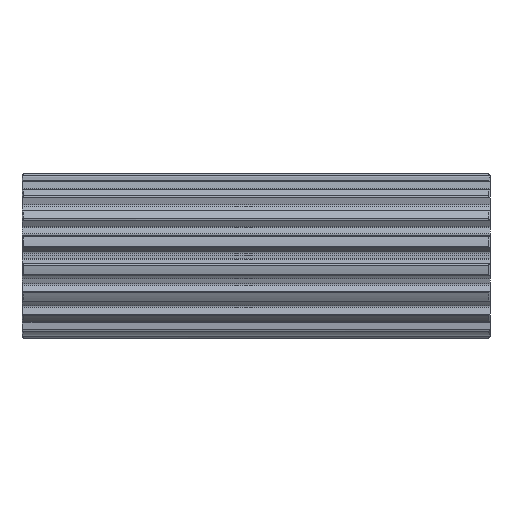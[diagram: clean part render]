
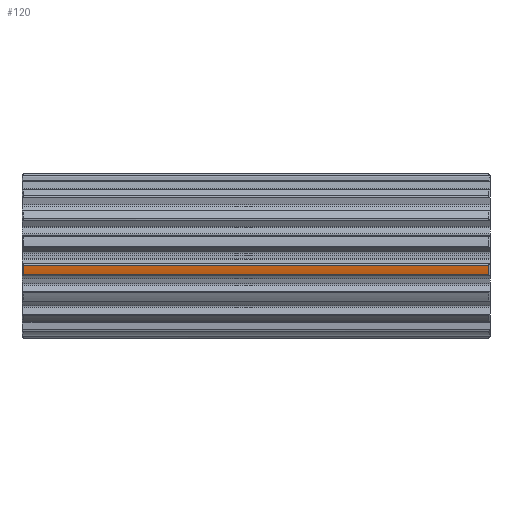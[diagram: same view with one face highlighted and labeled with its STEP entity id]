
A CAD part, top view. The second image highlights one B-rep face of the part: STEP entity #120.
In plain terms, the highlighted cylindrical face has radius 28.145 mm (diameter 56.29 mm), a partial arc.
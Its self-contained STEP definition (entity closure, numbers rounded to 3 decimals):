
#120=ADVANCED_FACE('',(#366),#367,.T.);
#366=FACE_OUTER_BOUND('',#768,.T.);
#367=CYLINDRICAL_SURFACE('',#769,28.145);
#768=EDGE_LOOP('',(#1435,#1436,#1437,#1438));
#769=AXIS2_PLACEMENT_3D('',#1439,#1440,#1441);
#1435=ORIENTED_EDGE('',*,*,#2971,.T.);
#1436=ORIENTED_EDGE('',*,*,#3027,.T.);
#1437=ORIENTED_EDGE('',*,*,#3028,.T.);
#1438=ORIENTED_EDGE('',*,*,#3029,.T.);
#1439=CARTESIAN_POINT('',(80.0,0.0,0.0));
#1440=DIRECTION('',(1.0,0.0,-0.0));
#1441=DIRECTION('',(0.0,0.985,0.174));
#2971=EDGE_CURVE('',#3659,#3668,#3670,.T.);
#3027=EDGE_CURVE('',#3668,#3771,#3772,.T.);
#3028=EDGE_CURVE('',#3771,#3773,#3774,.T.);
#3029=EDGE_CURVE('',#3773,#3659,#3775,.T.);
#3659=VERTEX_POINT('',#5079);
#3668=VERTEX_POINT('',#5113);
#3670=CIRCLE('',#5122,28.145);
#3771=VERTEX_POINT('',#5433);
#3772=LINE('',#5434,#5435);
#3773=VERTEX_POINT('',#5436);
#3774=CIRCLE('',#5437,28.145);
#3775=LINE('',#5438,#5439);
#5079=CARTESIAN_POINT('',(0.5,-3.295,27.951));
#5113=CARTESIAN_POINT('',(0.5,-6.464,27.393));
#5122=AXIS2_PLACEMENT_3D('',#6915,#6916,#6917);
#5433=CARTESIAN_POINT('',(159.5,-6.464,27.393));
#5434=CARTESIAN_POINT('',(80.0,-6.464,27.393));
#5435=VECTOR('',#6975,1.0);
#5436=CARTESIAN_POINT('',(159.5,-3.295,27.951));
#5437=AXIS2_PLACEMENT_3D('',#6976,#6977,#6978);
#5438=CARTESIAN_POINT('',(80.0,-3.295,27.951));
#5439=VECTOR('',#6979,1.0);
#6915=CARTESIAN_POINT('',(0.5,0.0,0.0));
#6916=DIRECTION('',(1.0,0.,0.));
#6917=DIRECTION('',(0.,0.985,0.174));
#6975=DIRECTION('',(1.0,0.0,0.0));
#6976=CARTESIAN_POINT('',(159.5,0.0,0.0));
#6977=DIRECTION('',(-1.0,0.0,0.0));
#6978=DIRECTION('',(0.0,0.985,0.174));
#6979=DIRECTION('',(-1.0,0.0,0.0));
